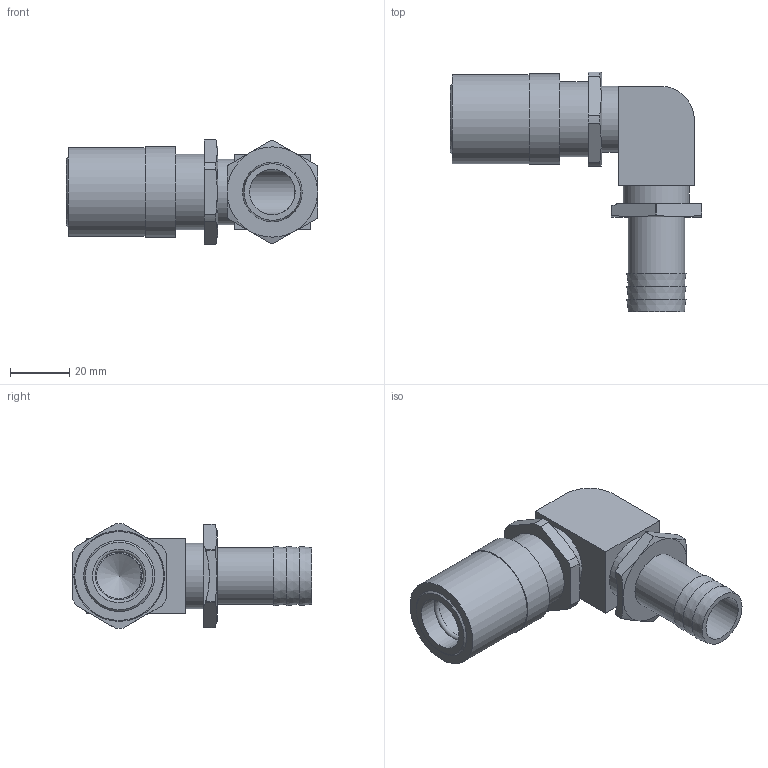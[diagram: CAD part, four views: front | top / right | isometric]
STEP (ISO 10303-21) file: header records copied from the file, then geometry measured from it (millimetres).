
FILE_DESCRIPTION(/* description */ ('STEP AP214'),/* implementation_level */ '2;1');
FILE_NAME(/* name */ 'JS-516-V',/* time_stamp */ '2024-12-19T08:42:01+01:00',/* author */ ('License CC BY-ND 4.0'),/* organization */ ('CADENAS'),/* preprocessor_version */ 'ST-DEVELOPER v19.3',/* originating_system */ 'PARTsolutions',/* authorisation */ ' ');
FILE_SCHEMA (('AUTOMOTIVE_DESIGN {1 0 10303 214 3 1 1}'));
Length unit declared in the file: inch
Products named in the file (1): JS-516-V
Bounding box: 84.72 x 80.89 x 35.18 mm (x, y, z)
Volume: 46975.7 mm3; surface area: 21192.2 mm2
Topology: 1 solids, 1 shells, 72 faces, 167 edges, 108 vertices
Faces by surface type: plane 34, cylinder 25, cone 12, torus 1
Full cylindrical faces by diameter (mm): 15.24 x1, 15.342 x1, 17.983 x2, 19.05 x1, 22.225 x2, 25.4 x1, 29.972 x1, 30.571 x1
Entity records: 1997 total; most frequent: CARTESIAN_POINT 429, DIRECTION 326, ORIENTED_EDGE 284, EDGE_CURVE 142, AXIS2_PLACEMENT_3D 136, VERTEX_POINT 102, FACE_BOUND 102, EDGE_LOOP 101
